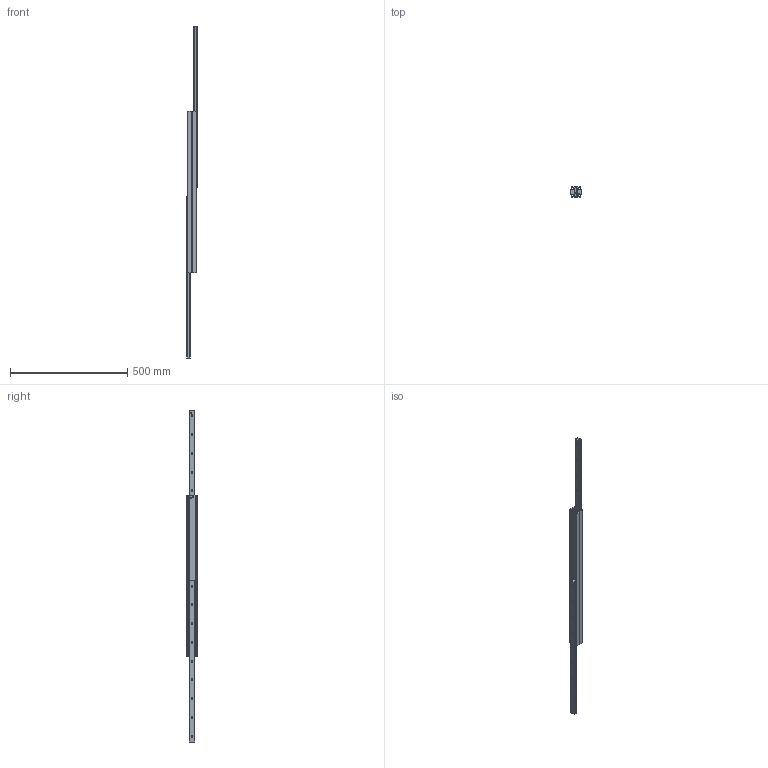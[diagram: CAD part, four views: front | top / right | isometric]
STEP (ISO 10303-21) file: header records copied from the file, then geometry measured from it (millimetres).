
FILE_DESCRIPTION( ( 'STEP AP214' ), '1' );
FILE_NAME( 'p:/temp/worker_81/temp/exporttempdir_3000_632_rKuOy/format_0/DEF43-690726.stp', '2020-03-20T19:54:17', ( 'License CC BY-ND 4.0' ), ( 'CADENAS' ), ' ', 'PARTsolutions', ' ' );
FILE_SCHEMA( ( 'AUTOMOTIVE_DESIGN { 1 0 10303 214 1 1 1 1 }' ) );
Length unit declared in the file: millimetre
Products named in the file (4): DEF43-690726; _432169072612-gf; _43216907261-ei; _432169072611-gf
Assembly tree (4 placements, depth 2):
  DEF43-690726
    _432169072612-gf
    _43216907261-ei  x2
    _432169072611-gf
Bounding box: 44 x 43 x 1416 mm (x, y, z)
Volume: 853124.8 mm3; surface area: 326657.2 mm2
Topology: 4 solids, 4 shells, 206 faces, 518 edges, 332 vertices
Faces by surface type: plane 102, cylinder 64, cone 40
Full cylindrical faces by diameter (mm): 4.134 x2, 6.647 x18, 7 x2
Entity records: 5808 total; most frequent: DIRECTION 800, CARTESIAN_POINT 747, ORIENTED_EDGE 670, EDGE_CURVE 335, AXIS2_PLACEMENT_3D 302, EDGE_LOOP 260, VERTEX_POINT 249, LINE 196
